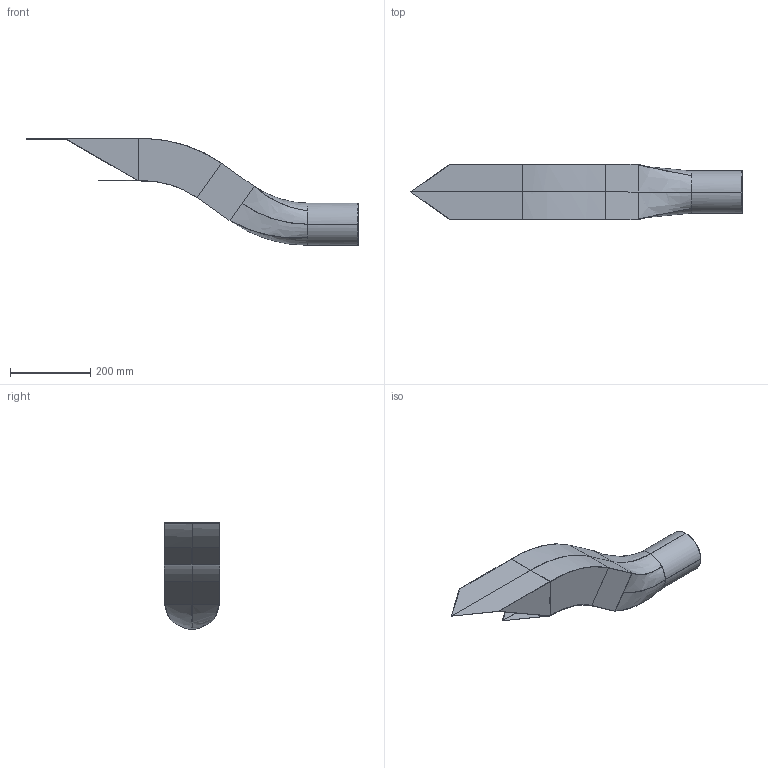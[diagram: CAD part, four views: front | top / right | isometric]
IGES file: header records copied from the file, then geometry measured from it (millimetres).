
Start section: START RECORD GO HERE.
Global section: file name: TestCase3_AirDuct.igs; native system: DASSAULT SYSTEMES CATIA Version 5-6 Release 2020 - www.3ds.com; preprocessor: V5-6R2020_5.30.4.20.07-06-2022.16.00; author: scdtasp; organization: DASSAULT-AVIATION; date: 20250514.164647; units: millimetre
Bounding box: 826.4 x 137.5 x 265.44 mm (x, y, z)
Surface area: 620061.9 mm2 (no closed solid volume)
Topology: 0 solids, 0 shells, 86 faces, 388 edges, 382 vertices
Faces by surface type: bspline 60, plane 26
